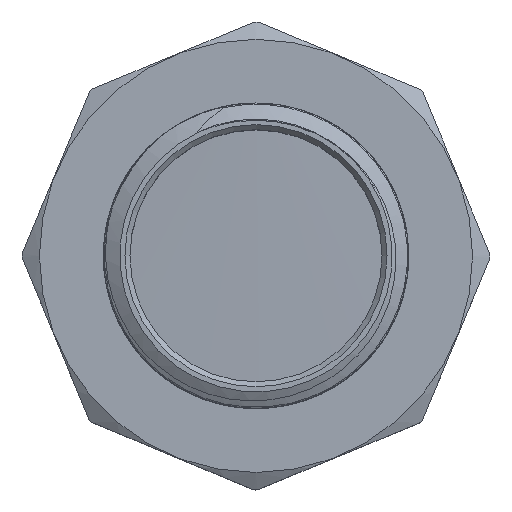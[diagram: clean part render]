
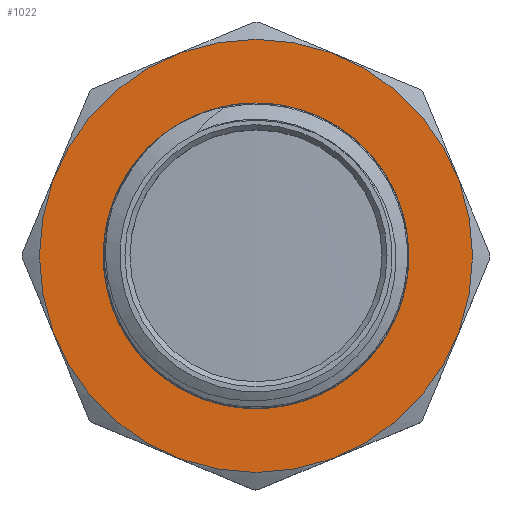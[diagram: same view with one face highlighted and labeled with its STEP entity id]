
A CAD part, top view. The second image highlights one B-rep face of the part: STEP entity #1022.
In plain terms, the highlighted planar face has unit normal (0, 0, 1) by its records, which use the part's own axes.
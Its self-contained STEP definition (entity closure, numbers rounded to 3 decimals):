
#28=PLANE('',#1135);
#68=FACE_BOUND('',#183,.T.);
#123=FACE_OUTER_BOUND('',#182,.T.);
#182=EDGE_LOOP('',(#940,#941));
#183=EDGE_LOOP('',(#942,#943));
#185=CIRCLE('',#1047,15.145);
#186=CIRCLE('',#1048,15.145);
#189=CIRCLE('',#1061,21.477);
#190=CIRCLE('',#1062,21.477);
#378=VERTEX_POINT('',#1439);
#379=VERTEX_POINT('',#1441);
#404=VERTEX_POINT('',#2303);
#405=VERTEX_POINT('',#2304);
#484=EDGE_CURVE('',#378,#379,#185,.T.);
#485=EDGE_CURVE('',#379,#378,#186,.T.);
#521=EDGE_CURVE('',#404,#405,#189,.T.);
#522=EDGE_CURVE('',#405,#404,#190,.T.);
#940=ORIENTED_EDGE('',*,*,#521,.T.);
#941=ORIENTED_EDGE('',*,*,#522,.T.);
#942=ORIENTED_EDGE('',*,*,#485,.F.);
#943=ORIENTED_EDGE('',*,*,#484,.F.);
#1022=ADVANCED_FACE('',(#123,#68),#28,.T.);
#1047=AXIS2_PLACEMENT_3D('',#1442,#1153,#1154);
#1048=AXIS2_PLACEMENT_3D('',#1443,#1155,#1156);
#1061=AXIS2_PLACEMENT_3D('',#2305,#1190,#1191);
#1062=AXIS2_PLACEMENT_3D('',#2306,#1192,#1193);
#1135=AXIS2_PLACEMENT_3D('',#7412,#1365,#1366);
#1153=DIRECTION('center_axis',(0.,0.,1.));
#1154=DIRECTION('ref_axis',(1.,0.,0.));
#1155=DIRECTION('center_axis',(0.,0.,1.));
#1156=DIRECTION('ref_axis',(1.,0.,0.));
#1190=DIRECTION('center_axis',(0.,0.,1.));
#1191=DIRECTION('ref_axis',(0.,1.,0.));
#1192=DIRECTION('center_axis',(0.,0.,1.));
#1193=DIRECTION('ref_axis',(0.,1.,0.));
#1365=DIRECTION('center_axis',(0.,0.,1.));
#1366=DIRECTION('ref_axis',(1.,0.,0.));
#1439=CARTESIAN_POINT('',(0.,15.145,23.196));
#1441=CARTESIAN_POINT('',(0.,-15.145,23.196));
#1442=CARTESIAN_POINT('Origin',(0.,0.,23.196));
#1443=CARTESIAN_POINT('Origin',(0.,0.,23.196));
#2303=CARTESIAN_POINT('',(0.,21.477,23.196));
#2304=CARTESIAN_POINT('',(0.,-21.477,23.196));
#2305=CARTESIAN_POINT('Origin',(0.,0.,23.196));
#2306=CARTESIAN_POINT('Origin',(0.,0.,23.196));
#7412=CARTESIAN_POINT('Origin',(0.,-15.145,23.196));
